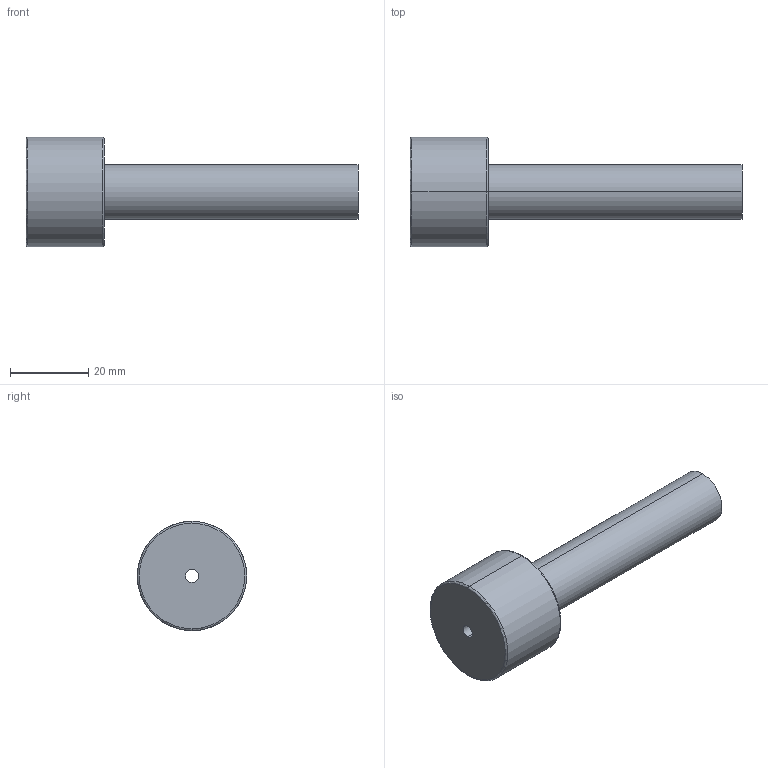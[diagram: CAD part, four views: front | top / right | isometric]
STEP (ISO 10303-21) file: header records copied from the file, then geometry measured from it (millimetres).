
FILE_DESCRIPTION(('CATIA V5 STEP Exchange'),'2;1');
FILE_NAME('C:\Users\Utente\Desktop\IO LAVORO\3D X SITO CF\X SITO\PLASTICA\3D files 367\367-14X85.stp','2021-03-24T15:14:22+00:00',('none'),('none'),'CATIA Version 5 Release 20 GA (IN-10)','CATIA V5 STEP AP203','none');
FILE_SCHEMA(('CONFIG_CONTROL_DESIGN'));
Length unit declared in the file: millimetre
Products named in the file (1): 367-14X85
Bounding box: 85 x 28 x 28 mm (x, y, z)
Volume: 20163 mm3; surface area: 7232 mm2
Topology: 1 solids, 1 shells, 13 faces, 42 edges, 32 vertices
Faces by surface type: torus 4, cylinder 4, plane 3, cone 2
Entity records: 608 total; most frequent: CARTESIAN_POINT 194, ORIENTED_EDGE 84, DIRECTION 60, AXIS2_PLACEMENT_3D 42, EDGE_CURVE 42, VERTEX_POINT 32, CIRCLE 28, EDGE_LOOP 16
